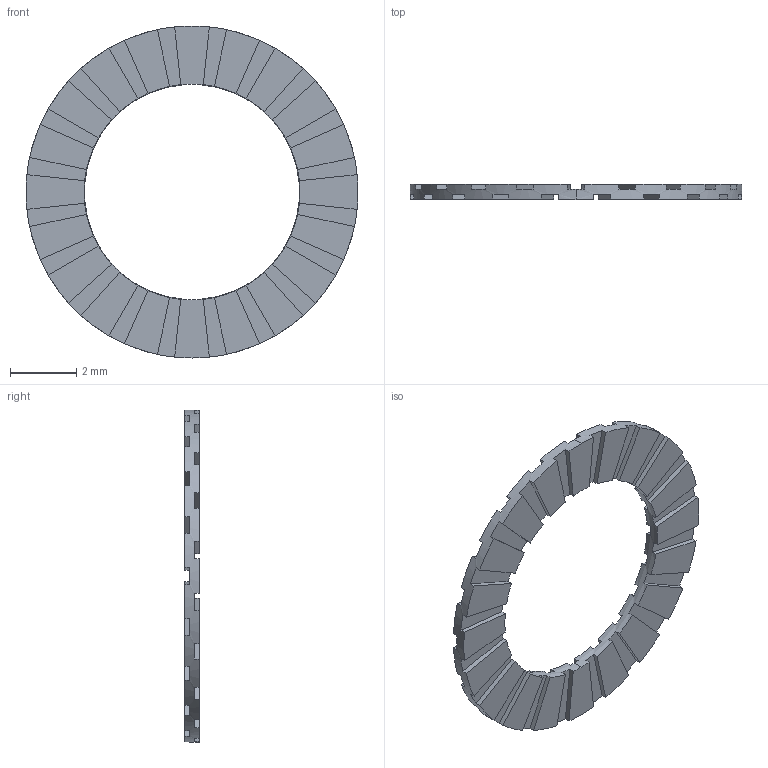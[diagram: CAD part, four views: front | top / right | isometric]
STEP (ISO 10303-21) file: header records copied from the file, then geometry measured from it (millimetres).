
FILE_DESCRIPTION (( 'STEP AP214' ), '1' );
FILE_NAME ('PTS-M6.STEP', '2019-10-30T05:29:49', ( '微软用户' ), ( '微软中国' ), 'SwSTEP 2.0', 'SolidWorks 2016', '' );
FILE_SCHEMA (( 'AUTOMOTIVE_DESIGN' ));
Length unit declared in the file: millimetre
Products named in the file (1): PTS-M6
Bounding box: 10 x 0.45 x 10 mm (x, y, z)
Volume: 15.9 mm3; surface area: 129.9 mm2
Topology: 1 solids, 1 shells, 164 faces, 492 edges, 328 vertices
Faces by surface type: plane 160, cylinder 4
Entity records: 5622 total; most frequent: DIRECTION 990, CARTESIAN_POINT 985, ORIENTED_EDGE 984, EDGE_CURVE 492, AXIS2_PLACEMENT_3D 333, VERTEX_POINT 328, VECTOR 324, LINE 324
